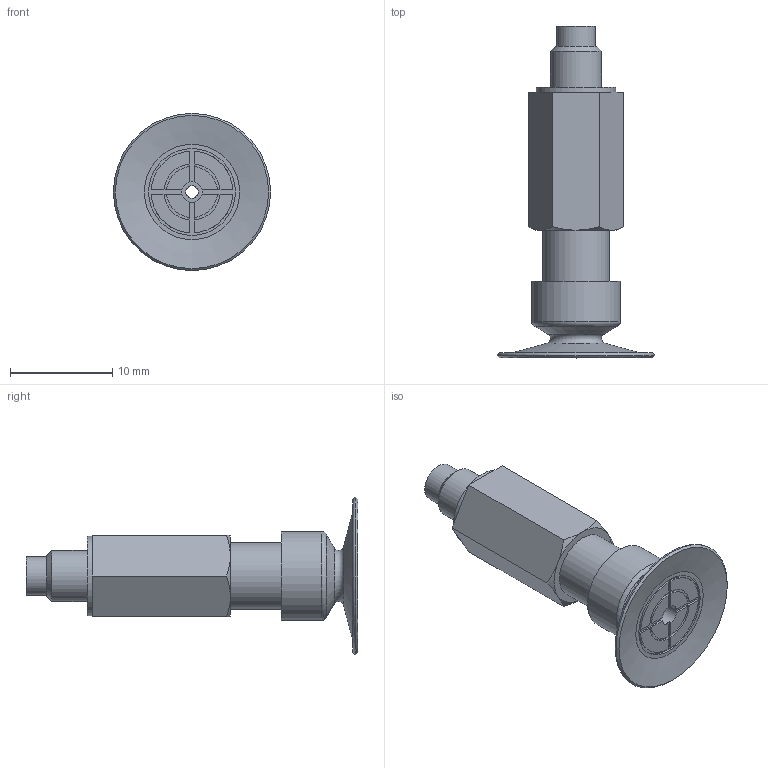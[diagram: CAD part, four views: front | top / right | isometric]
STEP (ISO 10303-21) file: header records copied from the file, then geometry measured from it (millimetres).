
FILE_DESCRIPTION(('STEP AP214'),'1');
FILE_NAME('.stp','2024-08-12T01:54:49',(' '),(' '),'Spatial InterOp 3D',' ',' ');
FILE_SCHEMA(('AUTOMOTIVE_DESIGN { 1 0 10303 214 1 1 1 1 }'));
Length unit declared in the file: millimetre
Products named in the file (4): BPSS-L5-BPAG-15B-※; PSS-10A-L5-M; PSS-10A-L5-F; BPAG-15B-※
Assembly tree (3 placements, depth 2):
  BPSS-L5-BPAG-15B-※
    PSS-10A-L5-M
    PSS-10A-L5-F
    BPAG-15B-※
Bounding box: 15.4 x 32.5 x 15.4 mm (x, y, z)
Volume: 1294.5 mm3; surface area: 2118.6 mm2
Topology: 3 solids, 3 shells, 97 faces, 214 edges, 133 vertices
Faces by surface type: plane 42, cylinder 28, cone 20, torus 7
Full cylindrical faces by diameter (mm): 1.2 x1, 2 x1, 2.4 x2, 3.4 x1, 3.8 x1, 4 x2, 5 x1, 6 x2, 6.5 x2, 7.8 x1, 8.5 x1, 8.7 x1
Entity records: 3640 total; most frequent: CARTESIAN_POINT 506, DIRECTION 430, ORIENTED_EDGE 354, AXIS2_PLACEMENT_3D 179, EDGE_CURVE 177, STYLED_ITEM 152, PRESENTATION_STYLE_ASSIGNMENT 152, COLOUR_RGB 152
